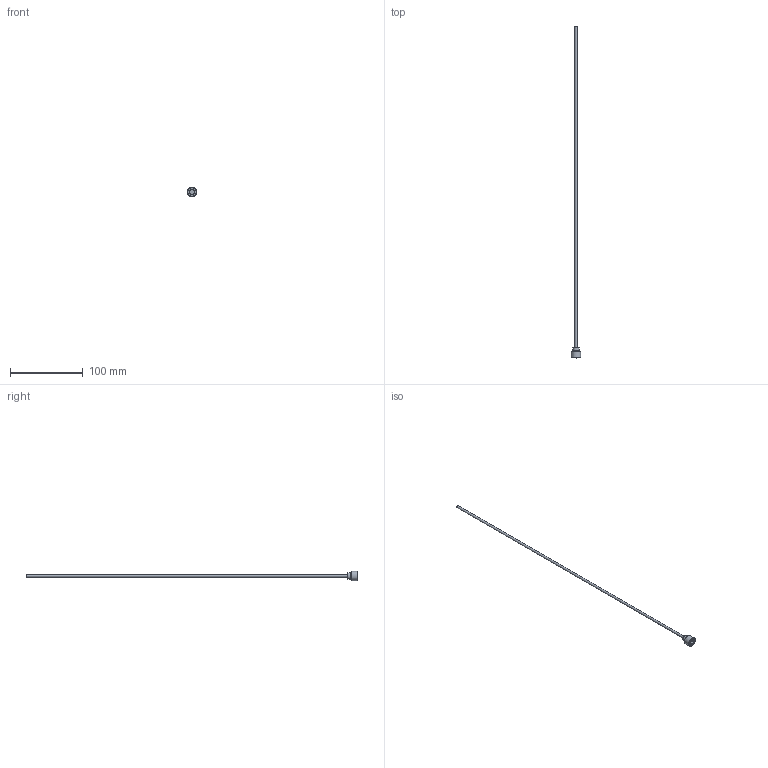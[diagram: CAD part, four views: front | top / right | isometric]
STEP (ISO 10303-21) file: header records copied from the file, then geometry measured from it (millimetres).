
FILE_DESCRIPTION(/* description */ (''),/* implementation_level */ '2;1');
FILE_NAME(/* name */ 'C:/Users/drich/Desktop/DR-250 v3.step',/* time_stamp */ '2020-01-08T16:10:25-06:00',/* author */ (''),/* organization */ (''),/* preprocessor_version */ 'ST-DEVELOPER v18',/* originating_system */ 'Autodesk Translation Framework v8.12.0.6',/* authorisation */ '');
FILE_SCHEMA (('AUTOMOTIVE_DESIGN { 1 0 10303 214 3 1 1 }'));
Length unit declared in the file: inch
Products named in the file (1): DR-250
Bounding box: 13.03 x 457.2 x 13.03 mm (x, y, z)
Volume: 4752.2 mm3; surface area: 5355.4 mm2
Topology: 2 solids, 2 shells, 22 faces, 49 edges, 34 vertices
Faces by surface type: plane 13, cylinder 4, cone 3, torus 2
Full cylindrical faces by diameter (mm): 3.175 x1, 6.299 x1, 8.712 x1, 13.032 x1
Entity records: 664 total; most frequent: CARTESIAN_POINT 118, DIRECTION 113, ORIENTED_EDGE 98, EDGE_CURVE 49, AXIS2_PLACEMENT_3D 47, VERTEX_POINT 34, EDGE_LOOP 25, CIRCLE 24
